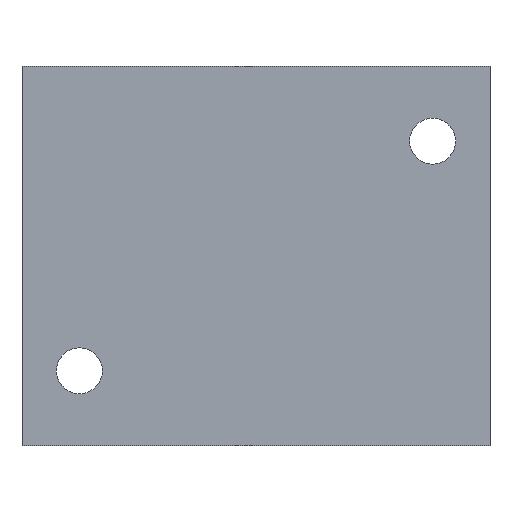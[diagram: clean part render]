
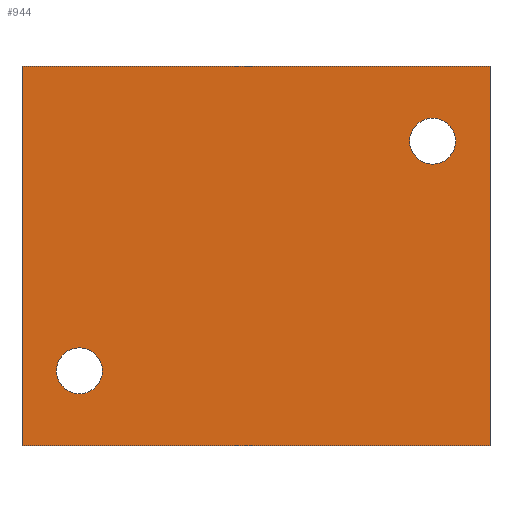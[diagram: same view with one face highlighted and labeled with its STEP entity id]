
A CAD part, front view. The second image highlights one B-rep face of the part: STEP entity #944.
In plain terms, the highlighted planar face has unit normal (0, -1, 0).
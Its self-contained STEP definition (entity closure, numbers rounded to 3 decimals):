
#23 = EDGE_CURVE ( 'NONE', #1020, #1808, #427, .T. ) ;
#44 = VECTOR ( 'NONE', #2006, 1000. ) ;
#69 = CARTESIAN_POINT ( 'NONE',  ( 20., -21., 13. ) ) ;
#70 = CARTESIAN_POINT ( 'NONE',  ( -26.5, -21., 21.5 ) ) ;
#84 = DIRECTION ( 'NONE',  ( 0., 0., -1. ) ) ;
#87 = FACE_BOUND ( 'NONE', #1189, .T. ) ;
#102 = PLANE ( 'NONE',  #1105 ) ;
#155 = CIRCLE ( 'NONE', #1376, 2.6 ) ;
#162 = EDGE_CURVE ( 'NONE', #910, #1679, #2025, .T. ) ;
#224 = DIRECTION ( 'NONE',  ( 0., -1., 0. ) ) ;
#247 = ORIENTED_EDGE ( 'NONE', *, *, #1962, .T. ) ;
#251 = EDGE_CURVE ( 'NONE', #861, #1808, #1874, .T. ) ;
#284 = VERTEX_POINT ( 'NONE', #1674 ) ;
#302 = EDGE_CURVE ( 'NONE', #1679, #910, #155, .T. ) ;
#308 = VERTEX_POINT ( 'NONE', #2050 ) ;
#318 = ORIENTED_EDGE ( 'NONE', *, *, #1576, .F. ) ;
#384 = ORIENTED_EDGE ( 'NONE', *, *, #23, .F. ) ;
#427 = LINE ( 'NONE', #1451, #1171 ) ;
#438 = CIRCLE ( 'NONE', #512, 2.6 ) ;
#446 = ORIENTED_EDGE ( 'NONE', *, *, #162, .F. ) ;
#512 = AXIS2_PLACEMENT_3D ( 'NONE', #537, #224, #84 ) ;
#537 = CARTESIAN_POINT ( 'NONE',  ( -20., -21., -13. ) ) ;
#544 = ORIENTED_EDGE ( 'NONE', *, *, #251, .T. ) ;
#615 = VECTOR ( 'NONE', #1247, 1000. ) ;
#656 = VECTOR ( 'NONE', #1289, 1000. ) ;
#677 = CARTESIAN_POINT ( 'NONE',  ( -20., -21., -13. ) ) ;
#792 = FACE_OUTER_BOUND ( 'NONE', #972, .T. ) ;
#843 = DIRECTION ( 'NONE',  ( 0., -1., 0. ) ) ;
#861 = VERTEX_POINT ( 'NONE', #1327 ) ;
#902 = CARTESIAN_POINT ( 'NONE',  ( 20., -21., 15.6 ) ) ;
#904 = CARTESIAN_POINT ( 'NONE',  ( -26.5, -21., 21.5 ) ) ;
#910 = VERTEX_POINT ( 'NONE', #1005 ) ;
#916 = LINE ( 'NONE', #904, #615 ) ;
#944 = ADVANCED_FACE ( 'NONE', ( #792, #1639, #87 ), #102, .F. ) ;
#972 = EDGE_LOOP ( 'NONE', ( #544, #384, #1242, #247 ) ) ;
#1005 = CARTESIAN_POINT ( 'NONE',  ( 20., -21., 10.4 ) ) ;
#1011 = ORIENTED_EDGE ( 'NONE', *, *, #302, .F. ) ;
#1020 = VERTEX_POINT ( 'NONE', #1612 ) ;
#1105 = AXIS2_PLACEMENT_3D ( 'NONE', #2135, #1294, #1307 ) ;
#1122 = DIRECTION ( 'NONE',  ( 0., 0., -1. ) ) ;
#1171 = VECTOR ( 'NONE', #1122, 1000. ) ;
#1189 = EDGE_LOOP ( 'NONE', ( #446, #1011 ) ) ;
#1217 = VERTEX_POINT ( 'NONE', #1560 ) ;
#1242 = ORIENTED_EDGE ( 'NONE', *, *, #1352, .F. ) ;
#1247 = DIRECTION ( 'NONE',  ( 1., 0., 0. ) ) ;
#1289 = DIRECTION ( 'NONE',  ( 0., 0., -1. ) ) ;
#1294 = DIRECTION ( 'NONE',  ( 0., 1., 0. ) ) ;
#1307 = DIRECTION ( 'NONE',  ( 0., 0., 1. ) ) ;
#1327 = CARTESIAN_POINT ( 'NONE',  ( -26.5, -21., -21.5 ) ) ;
#1347 = DIRECTION ( 'NONE',  ( 0., 0., -1. ) ) ;
#1352 = EDGE_CURVE ( 'NONE', #284, #1020, #916, .T. ) ;
#1354 = ORIENTED_EDGE ( 'NONE', *, *, #1386, .F. ) ;
#1376 = AXIS2_PLACEMENT_3D ( 'NONE', #2169, #843, #1347 ) ;
#1386 = EDGE_CURVE ( 'NONE', #1217, #308, #438, .T. ) ;
#1428 = DIRECTION ( 'NONE',  ( 0., -1., 0. ) ) ;
#1451 = CARTESIAN_POINT ( 'NONE',  ( 26.5, -21., 21.5 ) ) ;
#1512 = EDGE_LOOP ( 'NONE', ( #1354, #318 ) ) ;
#1517 = DIRECTION ( 'NONE',  ( 0., -1., 0. ) ) ;
#1520 = CARTESIAN_POINT ( 'NONE',  ( -26.5, -21., -21.5 ) ) ;
#1532 = DIRECTION ( 'NONE',  ( 0., 0., -1. ) ) ;
#1560 = CARTESIAN_POINT ( 'NONE',  ( -20., -21., -15.6 ) ) ;
#1576 = EDGE_CURVE ( 'NONE', #308, #1217, #1662, .T. ) ;
#1589 = CARTESIAN_POINT ( 'NONE',  ( 26.5, -21., -21.5 ) ) ;
#1612 = CARTESIAN_POINT ( 'NONE',  ( 26.5, -21., 21.5 ) ) ;
#1639 = FACE_BOUND ( 'NONE', #1512, .T. ) ;
#1662 = CIRCLE ( 'NONE', #1862, 2.6 ) ;
#1674 = CARTESIAN_POINT ( 'NONE',  ( -26.5, -21., 21.5 ) ) ;
#1679 = VERTEX_POINT ( 'NONE', #902 ) ;
#1808 = VERTEX_POINT ( 'NONE', #1589 ) ;
#1827 = AXIS2_PLACEMENT_3D ( 'NONE', #69, #1428, #1532 ) ;
#1862 = AXIS2_PLACEMENT_3D ( 'NONE', #677, #1517, #2177 ) ;
#1874 = LINE ( 'NONE', #1520, #44 ) ;
#1962 = EDGE_CURVE ( 'NONE', #284, #861, #2112, .T. ) ;
#2006 = DIRECTION ( 'NONE',  ( 1., 0., 0. ) ) ;
#2025 = CIRCLE ( 'NONE', #1827, 2.6 ) ;
#2050 = CARTESIAN_POINT ( 'NONE',  ( -20., -21., -10.4 ) ) ;
#2112 = LINE ( 'NONE', #70, #656 ) ;
#2135 = CARTESIAN_POINT ( 'NONE',  ( -26.5, -21., 21.5 ) ) ;
#2169 = CARTESIAN_POINT ( 'NONE',  ( 20., -21., 13. ) ) ;
#2177 = DIRECTION ( 'NONE',  ( 0., 0., -1. ) ) ;
